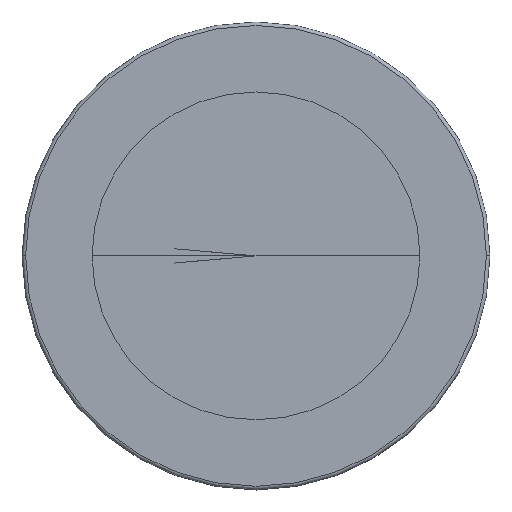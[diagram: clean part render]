
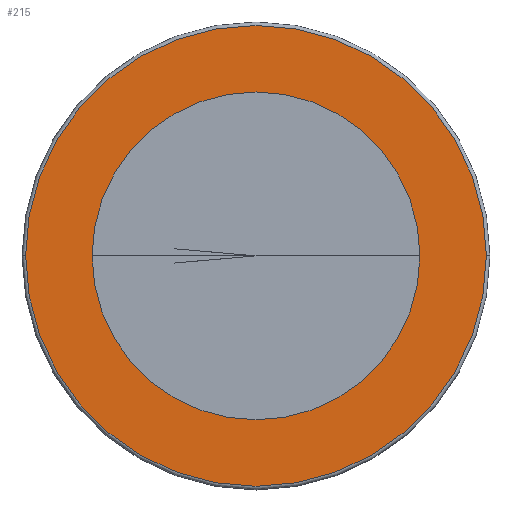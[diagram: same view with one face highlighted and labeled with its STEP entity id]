
A CAD part, top view. The second image highlights one B-rep face of the part: STEP entity #215.
In plain terms, the highlighted planar face has unit normal (0, 0, 1).
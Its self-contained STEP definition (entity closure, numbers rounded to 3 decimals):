
#9=CARTESIAN_POINT('',(0.,0.,3.024));
#10=DIRECTION('',(0.,0.,-1.));
#11=DIRECTION('',(1.,0.,0.));
#12=AXIS2_PLACEMENT_3D('',#9,#10,#11);
#14=CARTESIAN_POINT('',(0.,0.,3.024));
#15=DIRECTION('',(0.,0.,1.));
#16=DIRECTION('',(1.,0.,0.));
#17=AXIS2_PLACEMENT_3D('',#14,#15,#16);
#19=CARTESIAN_POINT('',(0.,0.,3.024));
#20=DIRECTION('',(0.,0.,-1.));
#21=DIRECTION('',(1.,0.,0.));
#22=AXIS2_PLACEMENT_3D('',#19,#20,#21);
#24=CARTESIAN_POINT('',(0.,0.,3.024));
#25=DIRECTION('',(0.,0.,-1.));
#26=DIRECTION('',(-1.,0.,0.));
#27=AXIS2_PLACEMENT_3D('',#24,#25,#26);
#134=CARTESIAN_POINT('',(2.33,0.,3.024));
#136=VERTEX_POINT('',#134);
#137=CARTESIAN_POINT('',(-2.33,0.,3.024));
#138=VERTEX_POINT('',#137);
#160=CARTESIAN_POINT('',(3.275,0.,3.024));
#161=CARTESIAN_POINT('',(-3.275,0.,3.024));
#162=VERTEX_POINT('',#160);
#163=VERTEX_POINT('',#161);
#200=CARTESIAN_POINT('',(0.,0.,3.024));
#201=DIRECTION('',(0.,0.,1.));
#202=DIRECTION('',(-1.,0.,0.));
#203=AXIS2_PLACEMENT_3D('',#200,#201,#202);
#204=PLANE('',#203);
#206=ORIENTED_EDGE('',*,*,#205,.T.);
#208=ORIENTED_EDGE('',*,*,#207,.T.);
#209=EDGE_LOOP('',(#206,#208));
#210=FACE_OUTER_BOUND('',#209,.F.);
#211=ORIENTED_EDGE('',*,*,#194,.F.);
#212=ORIENTED_EDGE('',*,*,#178,.T.);
#213=EDGE_LOOP('',(#211,#212));
#214=FACE_BOUND('',#213,.F.);
#215=ADVANCED_FACE('',(#210,#214),#204,.T.);
#13=CIRCLE('',#12,2.33);
#18=CIRCLE('',#17,2.33);
#23=CIRCLE('',#22,3.275);
#28=CIRCLE('',#27,3.275);
#178=EDGE_CURVE('',#136,#138,#18,.T.);
#194=EDGE_CURVE('',#136,#138,#13,.T.);
#205=EDGE_CURVE('',#162,#163,#23,.T.);
#207=EDGE_CURVE('',#163,#162,#28,.T.);
